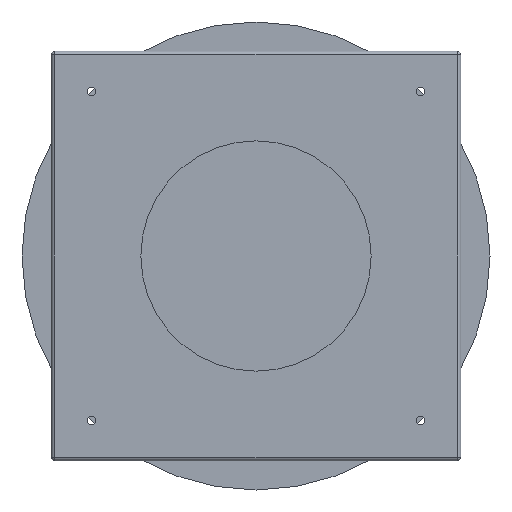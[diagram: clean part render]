
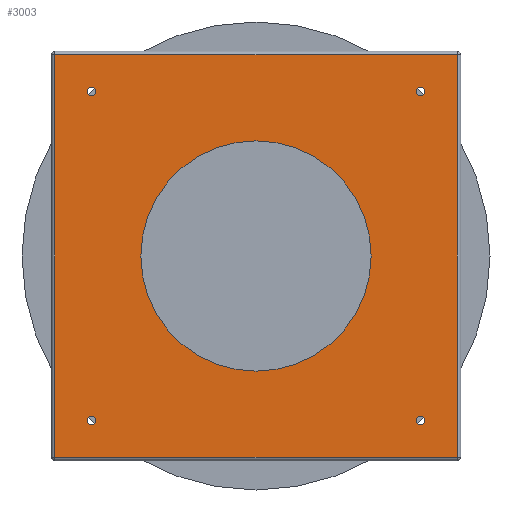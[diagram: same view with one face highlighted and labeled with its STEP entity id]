
A CAD part, front view. The second image highlights one B-rep face of the part: STEP entity #3003.
In plain terms, the highlighted planar face has unit normal (0, -1, 0).
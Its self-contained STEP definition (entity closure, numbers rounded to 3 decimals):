
#3003=ADVANCED_FACE('',(#6463,#6464,#6465,#6466,#6467,#6468),#6469,.F.);
#6463=FACE_BOUND('',#9932,.T.);
#6464=FACE_BOUND('',#9933,.T.);
#6465=FACE_BOUND('',#9934,.T.);
#6466=FACE_BOUND('',#9935,.T.);
#6467=FACE_BOUND('',#9936,.T.);
#6468=FACE_OUTER_BOUND('',#9937,.T.);
#6469=PLANE('',#9938);
#9932=EDGE_LOOP('',(#19890,#19891));
#9933=EDGE_LOOP('',(#19892,#19893));
#9934=EDGE_LOOP('',(#19894,#19895));
#9935=EDGE_LOOP('',(#19896,#19897));
#9936=EDGE_LOOP('',(#19898,#19899));
#9937=EDGE_LOOP('',(#19900,#19901,#19902,#19903));
#9938=AXIS2_PLACEMENT_3D('',#19904,#19905,#19906);
#19890=ORIENTED_EDGE('',*,*,#21044,.T.);
#19891=ORIENTED_EDGE('',*,*,#21011,.T.);
#19892=ORIENTED_EDGE('',*,*,#23902,.T.);
#19893=ORIENTED_EDGE('',*,*,#20005,.T.);
#19894=ORIENTED_EDGE('',*,*,#23905,.T.);
#19895=ORIENTED_EDGE('',*,*,#20000,.T.);
#19896=ORIENTED_EDGE('',*,*,#23908,.T.);
#19897=ORIENTED_EDGE('',*,*,#19995,.T.);
#19898=ORIENTED_EDGE('',*,*,#23911,.T.);
#19899=ORIENTED_EDGE('',*,*,#19990,.T.);
#19900=ORIENTED_EDGE('',*,*,#23919,.F.);
#19901=ORIENTED_EDGE('',*,*,#23925,.T.);
#19902=ORIENTED_EDGE('',*,*,#23931,.T.);
#19903=ORIENTED_EDGE('',*,*,#23959,.F.);
#19904=CARTESIAN_POINT('',(0.0,-170.5,0.0));
#19905=DIRECTION('',(0.0,1.0,0.0));
#19906=DIRECTION('',(0.0,0.0,1.0));
#19990=EDGE_CURVE('',#23999,#24003,#24005,.T.);
#19995=EDGE_CURVE('',#24008,#24012,#24014,.T.);
#20000=EDGE_CURVE('',#24017,#24021,#24023,.T.);
#20005=EDGE_CURVE('',#24026,#24030,#24032,.T.);
#21011=EDGE_CURVE('',#26032,#26036,#26038,.T.);
#21044=EDGE_CURVE('',#26036,#26032,#26084,.T.);
#23902=EDGE_CURVE('',#24030,#24026,#29883,.T.);
#23905=EDGE_CURVE('',#24021,#24017,#29886,.T.);
#23908=EDGE_CURVE('',#24012,#24008,#29889,.T.);
#23911=EDGE_CURVE('',#24003,#23999,#29892,.T.);
#23919=EDGE_CURVE('',#29897,#29903,#29904,.T.);
#23925=EDGE_CURVE('',#29897,#29911,#29913,.T.);
#23931=EDGE_CURVE('',#29911,#29915,#29922,.T.);
#23959=EDGE_CURVE('',#29903,#29915,#29963,.T.);
#23999=VERTEX_POINT('',#30006);
#24003=VERTEX_POINT('',#30011);
#24005=CIRCLE('',#30014,6.0);
#24008=VERTEX_POINT('',#30017);
#24012=VERTEX_POINT('',#30022);
#24014=CIRCLE('',#30025,6.0);
#24017=VERTEX_POINT('',#30028);
#24021=VERTEX_POINT('',#30033);
#24023=CIRCLE('',#30036,6.0);
#24026=VERTEX_POINT('',#30039);
#24030=VERTEX_POINT('',#30044);
#24032=CIRCLE('',#30047,6.0);
#26032=VERTEX_POINT('',#32073);
#26036=VERTEX_POINT('',#32078);
#26038=CIRCLE('',#32081,157.5);
#26084=CIRCLE('',#32131,157.5);
#29883=CIRCLE('',#36870,6.0);
#29886=CIRCLE('',#36873,6.0);
#29889=CIRCLE('',#36876,6.0);
#29892=CIRCLE('',#36879,6.0);
#29897=VERTEX_POINT('',#36884);
#29903=VERTEX_POINT('',#36890);
#29904=LINE('',#36891,#36892);
#29911=VERTEX_POINT('',#36901);
#29913=LINE('',#36903,#36904);
#29915=VERTEX_POINT('',#36906);
#29922=LINE('',#36913,#36914);
#29963=LINE('',#36963,#36964);
#30006=CARTESIAN_POINT('',(-219.0,-170.5,-225.0));
#30011=CARTESIAN_POINT('',(-231.0,-170.5,-225.0));
#30014=AXIS2_PLACEMENT_3D('',#37017,#37018,#37019);
#30017=CARTESIAN_POINT('',(231.0,-170.5,-225.0));
#30022=CARTESIAN_POINT('',(219.0,-170.5,-225.0));
#30025=AXIS2_PLACEMENT_3D('',#37025,#37026,#37027);
#30028=CARTESIAN_POINT('',(231.0,-170.5,225.0));
#30033=CARTESIAN_POINT('',(219.0,-170.5,225.0));
#30036=AXIS2_PLACEMENT_3D('',#37033,#37034,#37035);
#30039=CARTESIAN_POINT('',(-219.0,-170.5,225.0));
#30044=CARTESIAN_POINT('',(-231.0,-170.5,225.0));
#30047=AXIS2_PLACEMENT_3D('',#37041,#37042,#37043);
#32073=CARTESIAN_POINT('',(157.5,-170.5,0.));
#32078=CARTESIAN_POINT('',(-157.5,-170.5,0.));
#32081=AXIS2_PLACEMENT_3D('',#39988,#39989,#39990);
#32131=AXIS2_PLACEMENT_3D('',#40046,#40047,#40048);
#36870=AXIS2_PLACEMENT_3D('',#43896,#43897,#43898);
#36873=AXIS2_PLACEMENT_3D('',#43902,#43903,#43904);
#36876=AXIS2_PLACEMENT_3D('',#43908,#43909,#43910);
#36879=AXIS2_PLACEMENT_3D('',#43914,#43915,#43916);
#36884=CARTESIAN_POINT('',(275.0,-170.5,275.0));
#36890=CARTESIAN_POINT('',(275.0,-170.5,-275.0));
#36891=CARTESIAN_POINT('',(275.0,-170.5,0.0));
#36892=VECTOR('',#43929,1.0);
#36901=CARTESIAN_POINT('',(-275.0,-170.5,275.0));
#36903=CARTESIAN_POINT('',(0.0,-170.5,275.0));
#36904=VECTOR('',#43938,1.0);
#36906=CARTESIAN_POINT('',(-275.0,-170.5,-275.0));
#36913=CARTESIAN_POINT('',(-275.0,-170.5,0.0));
#36914=VECTOR('',#43948,1.0);
#36963=CARTESIAN_POINT('',(0.,-170.5,-275.0));
#36964=VECTOR('',#43993,1.0);
#37017=CARTESIAN_POINT('',(-225.0,-170.5,-225.0));
#37018=DIRECTION('',(-0.0,1.0,0.0));
#37019=DIRECTION('',(1.0,0.0,0.0));
#37025=CARTESIAN_POINT('',(225.0,-170.5,-225.0));
#37026=DIRECTION('',(-0.0,1.0,0.0));
#37027=DIRECTION('',(1.0,0.0,0.0));
#37033=CARTESIAN_POINT('',(225.0,-170.5,225.0));
#37034=DIRECTION('',(-0.0,1.0,0.0));
#37035=DIRECTION('',(1.0,0.0,0.0));
#37041=CARTESIAN_POINT('',(-225.0,-170.5,225.0));
#37042=DIRECTION('',(-0.0,1.0,0.0));
#37043=DIRECTION('',(1.0,0.0,0.0));
#39988=CARTESIAN_POINT('',(0.0,-170.5,0.0));
#39989=DIRECTION('',(-0.0,1.0,0.0));
#39990=DIRECTION('',(1.0,0.0,0.0));
#40046=CARTESIAN_POINT('',(0.0,-170.5,0.0));
#40047=DIRECTION('',(-0.0,1.0,0.0));
#40048=DIRECTION('',(1.0,0.0,0.0));
#43896=CARTESIAN_POINT('',(-225.0,-170.5,225.0));
#43897=DIRECTION('',(-0.0,1.0,0.0));
#43898=DIRECTION('',(1.0,0.0,0.0));
#43902=CARTESIAN_POINT('',(225.0,-170.5,225.0));
#43903=DIRECTION('',(-0.0,1.0,0.0));
#43904=DIRECTION('',(1.0,0.0,0.0));
#43908=CARTESIAN_POINT('',(225.0,-170.5,-225.0));
#43909=DIRECTION('',(-0.0,1.0,0.0));
#43910=DIRECTION('',(1.0,0.0,0.0));
#43914=CARTESIAN_POINT('',(-225.0,-170.5,-225.0));
#43915=DIRECTION('',(-0.0,1.0,0.0));
#43916=DIRECTION('',(1.0,0.0,0.0));
#43929=DIRECTION('',(0.0,0.0,-1.0));
#43938=DIRECTION('',(-1.0,0.,0.));
#43948=DIRECTION('',(0.0,0.0,-1.0));
#43993=DIRECTION('',(-1.0,0.,0.));
